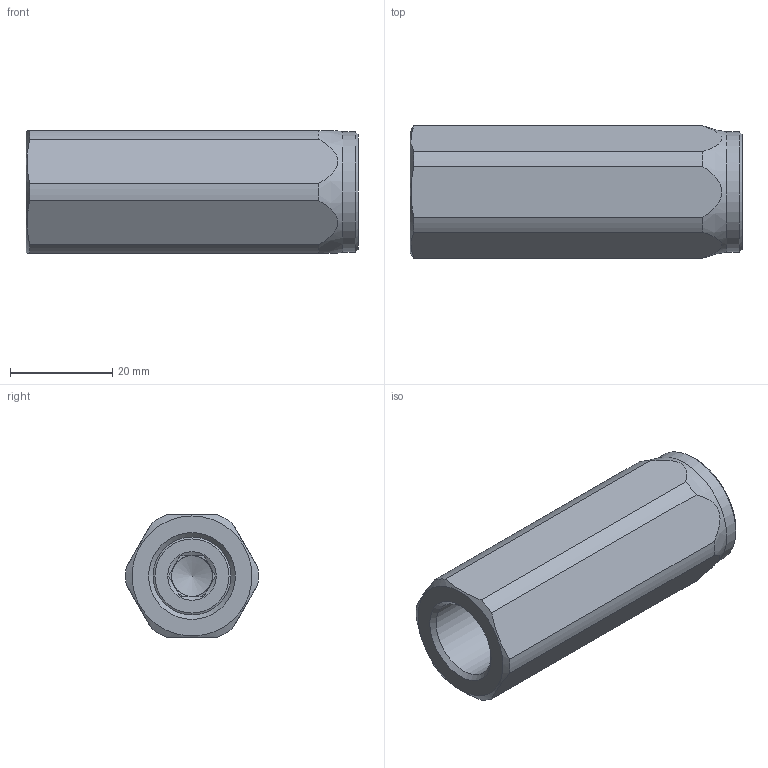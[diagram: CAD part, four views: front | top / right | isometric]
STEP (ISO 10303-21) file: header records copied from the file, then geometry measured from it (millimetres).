
FILE_DESCRIPTION (( 'STEP AP214' ), '1' );
FILE_NAME ('VUR380.STEP', '2020-06-15T07:00:04', ( '' ), ( '' ), 'SwSTEP 2.0', 'SolidWorks 2017', '' );
FILE_SCHEMA (( 'AUTOMOTIVE_DESIGN' ));
Length unit declared in the file: millimetre
Products named in the file (1): VUR380
Bounding box: 65 x 25.98 x 24 mm (x, y, z)
Volume: 22945.5 mm3; surface area: 12492.1 mm2
Topology: 4 solids, 4 shells, 74 faces, 166 edges, 104 vertices
Faces by surface type: plane 27, cylinder 22, cone 17, bspline 5, torus 3
Full cylindrical faces by diameter (mm): 4 x4, 8 x1, 9 x1, 11 x2, 12 x1, 15 x2, 15.25 x2, 16.662 x1, 17 x1, 23.5 x1
Entity records: 5036 total; most frequent: CARTESIAN_POINT 2750, DIRECTION 281, ORIENTED_EDGE 232, EDGE_LOOP 130, AXIS2_PLACEMENT_3D 128, EDGE_CURVE 116, FACE_OUTER_BOUND 95, VERTEX_POINT 94
